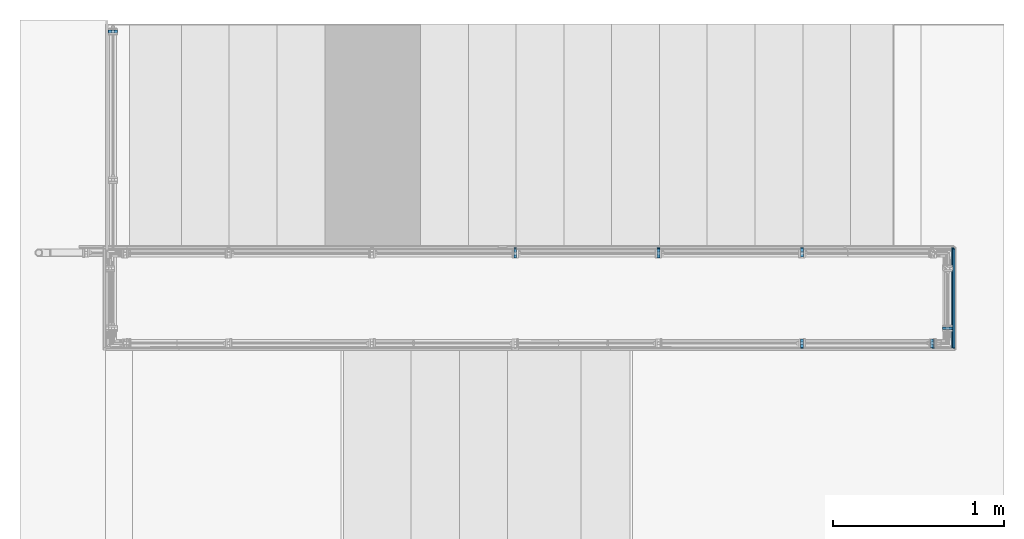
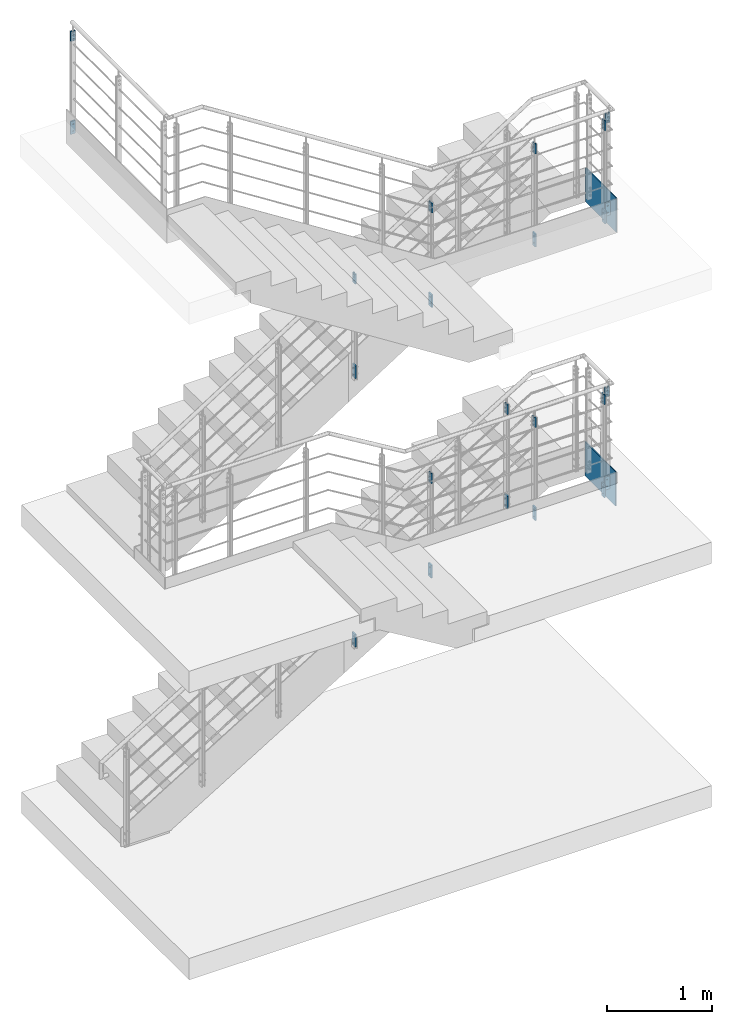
# One storey, part 19 of 98: 25 plates, 57 openings.
"""IFC2X3 building model written with IfcOpenShell, lengths in millimetres."""

import ifcopenshell
import ifcopenshell.guid

model = None  # the IFC model being written
_history = None  # IfcOwnerHistory: only IFC2X3 demands one
_inside = {}  # id of a spatial element -> (the spatial element, [elements in it])
_under = {}  # id of a project, library or spatial element -> (it, [spatial elements below it])
_declared = {}  # id of a project -> (the project, [libraries it declares])
_typed = {}  # id of a type object -> (the type object, [elements of that type])
_made_of = {}  # id of a material, layer set ... -> (it, [elements and type objects made of it])


def new_model(schema):
    """Start an empty IFC model of exactly this schema.

    Asked for "IFC4X3", IfcOpenShell would pick the latest addendum, in which some entities
    have other attributes; the version numbers below select the first issue.
    IFC2X3 requires an IfcOwnerHistory on every rooted entity: one is made here for all.
    """
    global model, _history
    if schema == "IFC4X3":
        model = ifcopenshell.file(schema_version=(4, 3, 0, 0))
    else:
        model = ifcopenshell.file(schema=schema)
    _inside.clear()
    _under.clear()
    _declared.clear()
    _typed.clear()
    _made_of.clear()
    _history = None
    if model.schema == "IFC2X3":
        org = make("IfcOrganization", Name="unknown")
        user = make(
            "IfcPersonAndOrganization",
            ThePerson=make("IfcPerson", FamilyName="unknown"),
            TheOrganization=org,
        )
        app = make(
            "IfcApplication",
            ApplicationDeveloper=org,
            Version="unknown",
            ApplicationFullName="unknown",
            ApplicationIdentifier="unknown",
        )
        _history = make(
            "IfcOwnerHistory",
            OwningUser=user,
            OwningApplication=app,
            ChangeAction="ADDED",
            CreationDate=0,
        )
    return model


def make(cls, **values):
    """One entity of the class cls with the attributes given. An attribute that is None is left unset."""
    return model.create_entity(
        cls, **{name: value for name, value in values.items() if value is not None}
    )


def entity(cls, *values):
    """Any entity or typed value of the class cls, its attributes in the order of the schema. None: left unset."""
    e = model.create_entity(cls)
    for i, value in enumerate(values):
        if value is not None:
            e[i] = value
    return e


def rooted(cls, **values):
    """An entity with a GlobalId (a new one), such as an element, a storey or a relation."""
    return make(cls, GlobalId=ifcopenshell.guid.new(), OwnerHistory=_history, **values)


def si_unit(unit_type, name, prefix=None):
    """IfcSIUnit, for example si_unit("LENGTHUNIT", "METRE", prefix="MILLI")."""
    return make("IfcSIUnit", UnitType=unit_type, Prefix=prefix, Name=name)


def converted_unit(unit_type, name, factor, base, dimensions=None, offset=None):
    """IfcConversionBasedUnit, such as the inch: factor (a typed value) times the base unit."""
    return make(
        "IfcConversionBasedUnit"
        if offset is None
        else "IfcConversionBasedUnitWithOffset",
        ConversionOffset=offset,
        Dimensions=None
        if dimensions is None
        else entity("IfcDimensionalExponents", *dimensions),
        UnitType=unit_type,
        Name=name,
        ConversionFactor=make(
            "IfcMeasureWithUnit", ValueComponent=factor, UnitComponent=base
        ),
    )


def assignment(units):
    """IfcUnitAssignment: the units of a project."""
    return None if units is None else make("IfcUnitAssignment", Units=units)


def point(xyz):
    """IfcCartesianPoint."""
    return None if xyz is None else make("IfcCartesianPoint", Coordinates=xyz)


def direction(xyz):
    """IfcDirection."""
    return None if xyz is None else make("IfcDirection", DirectionRatios=xyz)


def frame(location, z_axis=None, x_axis=None):
    """IfcAxis2Placement3D, a coordinate frame: its origin and axes. An axis left out is left unset."""
    return make(
        "IfcAxis2Placement3D",
        Location=point(location),
        Axis=direction(z_axis),
        RefDirection=direction(x_axis),
    )


def frame_2d(location, x_axis=None):
    """IfcAxis2Placement2D, a coordinate frame in the plane: its origin and x axis."""
    return make(
        "IfcAxis2Placement2D", Location=point(location), RefDirection=direction(x_axis)
    )


def origin():
    """The frame at (0, 0, 0) with its axes left unset."""
    return frame((0.0, 0.0, 0.0))


def origin_with_axes():
    """The frame at (0, 0, 0) with the z axis (0, 0, 1) and the x axis (1, 0, 0) written out."""
    return frame((0.0, 0.0, 0.0), z_axis=(0.0, 0.0, 1.0), x_axis=(1.0, 0.0, 0.0))


def place(relative_to, where):
    """IfcLocalPlacement: puts the frame where relative to a parent placement (None: the world)."""
    return make(
        "IfcLocalPlacement", PlacementRelTo=relative_to, RelativePlacement=where
    )


def context(
    kind, dimensions, precision=None, world=None, true_north=None, identifier=None
):
    """IfcGeometricRepresentationContext, for example the 3D "Model" context."""
    return make(
        "IfcGeometricRepresentationContext",
        ContextIdentifier=identifier,
        ContextType=kind,
        CoordinateSpaceDimension=dimensions,
        Precision=precision,
        WorldCoordinateSystem=world,
        TrueNorth=true_north,
    )


def project(units=None, contexts=None):
    """IfcProject with its units and contexts."""
    return rooted(
        "IfcProject",
        Name="project",
        RepresentationContexts=contexts,
        UnitsInContext=assignment(units),
    )


def spatial(cls, under=None, at=None, **own):
    """A site, building, storey or space (cls), placed at a placement, below another one or the project."""
    s = rooted(cls, ObjectPlacement=at, **own)
    if under is not None:
        _under.setdefault(under.id(), (under, []))[1].append(s)
    return s


def polyline(points):
    """IfcPolyline through the points."""
    return make("IfcPolyline", Points=[point(p) for p in points])


def profile(cls, at=None, kind="AREA", **sizes):
    """A parametric profile (cls). Its sizes go by their IFC names, for example OverallWidth=200.0."""
    return make(cls, ProfileType=kind, Position=at, **sizes)


def circle(**sizes):
    """IfcCircleProfileDef."""
    return profile("IfcCircleProfileDef", **sizes)


def outline(outer, holes=None, kind="AREA"):
    """IfcArbitraryClosedProfileDef: a profile drawn as a closed curve; with holes, ...WithVoids."""
    if holes is None:
        return make("IfcArbitraryClosedProfileDef", ProfileType=kind, OuterCurve=outer)
    return make(
        "IfcArbitraryProfileDefWithVoids",
        ProfileType=kind,
        OuterCurve=outer,
        InnerCurves=holes,
    )


def extrude(swept, where, along, depth):
    """IfcExtrudedAreaSolid: the profile swept, set in the frame where, extruded along a direction by depth."""
    return make(
        "IfcExtrudedAreaSolid",
        SweptArea=swept,
        Position=where,
        ExtrudedDirection=direction(along),
        Depth=depth,
    )


def shape(context_of_items, identifier, shape_type, items):
    """IfcShapeRepresentation: the items that make up one representation, for example the "Body"."""
    return make(
        "IfcShapeRepresentation",
        ContextOfItems=context_of_items,
        RepresentationIdentifier=identifier,
        RepresentationType=shape_type,
        Items=items,
    )


def material(Name=None, Category=None):
    """IfcMaterial."""
    return make("IfcMaterial", Name=Name, Category=Category)


def layer(
    of_material, thickness, ventilated=None, Name=None, Category=None, Priority=None
):
    """IfcMaterialLayer: one layer of a wall or slab, of a material (None: an air gap)."""
    return make(
        "IfcMaterialLayer",
        Material=of_material,
        LayerThickness=thickness,
        IsVentilated=ventilated,
        Name=Name,
        Category=Category,
        Priority=Priority,
    )


def layer_set(layers, Name=None):
    """IfcMaterialLayerSet."""
    return make("IfcMaterialLayerSet", MaterialLayers=layers, LayerSetName=Name)


def made_of(thing, what):
    """Note that an element or type object is made of a material, layer set ...; save() writes the relation."""
    if what is not None:
        _made_of.setdefault(what.id(), (what, []))[1].append(thing)
    return thing


def element(
    cls,
    number,
    at=None,
    inside=None,
    cuts=None,
    type_object=None,
    material=None,
    context=None,
    identifier="Body",
    shape_type=None,
    held_by="IfcProductDefinitionShape",
    body=None,
    shapes=None,
    **own,
):
    """One element of the class cls, such as IfcWall. Its Tag is "e" and its number.

    at: its placement. inside: the storey or other place that contains it. cuts: it is an
    opening in that element (IfcRelVoidsElement). A single representation is given by context,
    identifier, shape_type and body (its items); several are given by shapes. held_by: the class
    of the entity that holds the representations. save() writes the other relations.
    """
    e = rooted(cls, Tag="e%d" % number, ObjectPlacement=at, **own)
    if body is not None:
        shapes = [shape(context, identifier, shape_type, body)]
    if shapes is not None:
        e.Representation = make(held_by, Representations=shapes)
    if inside is not None:
        _inside.setdefault(inside.id(), (inside, []))[1].append(e)
    if cuts is not None:
        rooted(
            "IfcRelVoidsElement", RelatingBuildingElement=cuts, RelatedOpeningElement=e
        )
    if type_object is not None:
        _typed.setdefault(type_object.id(), (type_object, []))[1].append(e)
    return made_of(e, material)


def aggregate(whole, parts):
    """IfcRelAggregates: a whole, such as a stair, and the parts it consists of."""
    return rooted("IfcRelAggregates", RelatingObject=whole, RelatedObjects=parts)


def save(model, path):
    """Write the relations noted so far, then the file.

    IfcRelAggregates (storeys below a building ...), IfcRelContainedInSpatialStructure (elements
    in a storey), IfcRelDefinesByType, IfcRelAssociatesMaterial and IfcRelDeclares: one each for
    every whole, place, type object, material and project.
    """
    for whole, parts in _under.values():
        aggregate(whole, parts)
    for where, things in _inside.values():
        rooted(
            "IfcRelContainedInSpatialStructure",
            RelatedElements=things,
            RelatingStructure=where,
        )
    for kind, things in _typed.values():
        rooted("IfcRelDefinesByType", RelatedObjects=things, RelatingType=kind)
    for what, things in _made_of.values():
        rooted("IfcRelAssociatesMaterial", RelatedObjects=things, RelatingMaterial=what)
    for by, libraries in _declared.values():
        rooted("IfcRelDeclares", RelatingContext=by, RelatedDefinitions=libraries)
    model.write(path)


model = new_model("IFC2X3")

# Units and contexts
model_context = context("Model", 3, precision=1e-09, world=origin_with_axes())
ifc_project = project(units=[si_unit("LENGTHUNIT", "METRE", prefix="MILLI"), si_unit("AREAUNIT", "SQUARE_METRE"), si_unit("VOLUMEUNIT", "CUBIC_METRE"), converted_unit("PLANEANGLEUNIT", "DEGREE", entity("IfcPlaneAngleMeasure", 0.01745329), si_unit("PLANEANGLEUNIT", "RADIAN"), dimensions=[0, 0, 0, 0, 0, 0, 0])], contexts=[model_context])

# Site, building, storey
site_placement = place(None, origin_with_axes())
site = spatial("IfcSite", under=ifc_project, at=site_placement, Name="Maybachstra?e 2, 71563 Affalterbach", CompositionType="ELEMENT")
building_placement = place(site_placement, origin_with_axes())
building = spatial("IfcBuilding", under=site, at=building_placement, Name="Struktur 1", CompositionType="ELEMENT")
storey_placement = place(building_placement, origin_with_axes())
storey = spatial("IfcBuildingStorey", under=building, at=storey_placement, Name="Default Storey", CompositionType="ELEMENT", Elevation=0.0)

# Plate, openings
ifc_material_1 = material(Name="1.4301")
ifc_layer_1 = layer(ifc_material_1, 16.0)
ifc_layer_set_1 = layer_set([ifc_layer_1], Name="1.4301")
plate_1_placement = place(None, frame((10543.029157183, -45.0, 6299.059373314), z_axis=(1.0, 0.0, 0.0), x_axis=(0.0, 1.0, 0.0)))
plate_1 = element("IfcPlate", 1, at=plate_1_placement, inside=storey, material=ifc_layer_set_1, Name="-", ObjectType="-", context=model_context, shape_type="SweptSolid", body=[
    extrude(outline(polyline([(-25.0, -57.5), (25.0, -57.5), (25.0, 57.5), (-25.0, 57.5), (-25.0, -57.5)])), origin_with_axes(), (0.0, 0.0, -1.0), 16.0),
])
opening_1_placement = place(plate_1_placement, frame((-8.251, 32.499, 0.1), z_axis=(0.0, 0.0, 1.0), x_axis=(1.0, 0.0, 0.0)))
element("IfcOpeningElement", 2, at=opening_1_placement, cuts=plate_1, ObjectType="Opening", context=model_context, shape_type="SweptSolid", body=[
    extrude(outline(polyline([(0.0, 0.0), (16.502, 0.0), (16.502, 41.42654386), (0.0, 41.42654386), (0.0, 0.0)])), origin(), (0.0, 0.0, -1.0), 16.2),
])
opening_2_placement = place(plate_1_placement, frame((-6.501, 12.5, 0.5), z_axis=(0.0, 0.0, 1.0), x_axis=(1.0, 0.0, 0.0)))
element("IfcOpeningElement", 3, at=opening_2_placement, cuts=plate_1, ObjectType="Opening", context=model_context, shape_type="SweptSolid", body=[
    extrude(circle(Radius=6.501, at=frame_2d((6.501, 0.0), x_axis=(1.0, 0.0))), origin(), (0.0, 0.0, -1.0), 17.0),
])
opening_3_placement = place(plate_1_placement, frame((-6.501, -31.5, 0.5), z_axis=(0.0, 0.0, 1.0), x_axis=(1.0, 0.0, 0.0)))
element("IfcOpeningElement", 4, at=opening_3_placement, cuts=plate_1, ObjectType="Opening", context=model_context, shape_type="SweptSolid", body=[
    extrude(circle(Radius=6.501, at=frame_2d((6.501, 0.0), x_axis=(1.0, 0.0))), origin(), (0.0, 0.0, -1.0), 17.0),
])

ifc_material_2 = material(Name="S235JR")
ifc_layer_2 = layer(ifc_material_2, 16.0)
ifc_layer_set_2 = layer_set([ifc_layer_2], Name="S235JR")
plate_2_placement = place(None, frame((10543.029157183, -42.5, 5213.959373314), z_axis=(-1.0, 0.0, 0.0), x_axis=(0.0, -1.0, 0.0)))
plate_2 = element("IfcPlate", 5, at=plate_2_placement, inside=storey, material=ifc_layer_set_2, Name="-", ObjectType="-", context=model_context, shape_type="SweptSolid", body=[
    extrude(outline(polyline([(-27.5, -75.0), (27.5, -75.0), (27.5, 75.0), (-27.5, 75.0), (-27.5, -75.0)])), origin_with_axes(), (0.0, 0.0, 1.0), 16.0),
])
opening_4_placement = place(plate_2_placement, frame((9.501, 40.0, -0.5), z_axis=(0.0, 0.0, -1.0), x_axis=(-1.0, 0.0, 0.0)))
element("IfcOpeningElement", 6, at=opening_4_placement, cuts=plate_2, ObjectType="Opening", context=model_context, shape_type="SweptSolid", body=[
    extrude(circle(Radius=7.001, at=frame_2d((7.001, 0.0), x_axis=(1.0, 0.0))), origin(), (0.0, 0.0, -1.0), 17.0),
])
opening_5_placement = place(plate_2_placement, frame((9.501, -40.0, -0.5), z_axis=(0.0, 0.0, -1.0), x_axis=(-1.0, 0.0, 0.0)))
element("IfcOpeningElement", 7, at=opening_5_placement, cuts=plate_2, ObjectType="Opening", context=model_context, shape_type="SweptSolid", body=[
    extrude(circle(Radius=7.001, at=frame_2d((7.001, 0.0), x_axis=(1.0, 0.0))), origin(), (0.0, 0.0, -1.0), 17.0),
])

plate_3_placement = place(None, frame((11367.029157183, -572.5, 5947.5), z_axis=(1.0, 0.0, 0.0), x_axis=(0.0, 1.0, 0.0)))
plate_3 = element("IfcPlate", 8, at=plate_3_placement, inside=storey, material=ifc_layer_set_2, Name="-", ObjectType="-", context=model_context, shape_type="SweptSolid", body=[
    extrude(outline(polyline([(-27.5, -75.0), (27.5, -75.0), (27.5, 75.0), (-27.5, 75.0), (-27.5, -75.0)])), origin_with_axes(), (0.0, 0.0, 1.0), 16.0),
])
opening_6_placement = place(plate_3_placement, frame((2.5, 0.0, -0.5), z_axis=(0.0, 0.0, 1.0), x_axis=(1.0, 0.0, 0.0)))
element("IfcOpeningElement", 9, at=opening_6_placement, cuts=plate_3, ObjectType="Opening", context=model_context, shape_type="SweptSolid", body=[
    extrude(circle(Radius=7.001, at=frame_2d((0.0, 40.0), x_axis=(1.0, 0.0))), origin(), (0.0, 0.0, 1.0), 17.0),
])
opening_7_placement = place(plate_3_placement, frame((2.5, 0.0, -0.5), z_axis=(0.0, 0.0, 1.0), x_axis=(1.0, 0.0, 0.0)))
element("IfcOpeningElement", 10, at=opening_7_placement, cuts=plate_3, ObjectType="Opening", context=model_context, shape_type="SweptSolid", body=[
    extrude(circle(Radius=7.001, at=frame_2d((0.0, -40.0), x_axis=(1.0, 0.0))), origin(), (0.0, 0.0, 1.0), 17.0),
])

plate_4_placement = place(None, frame((11367.029157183, -570.0, 7012.6), z_axis=(1.0, 0.0, 0.0), x_axis=(0.0, 1.0, 0.0)))
plate_4 = element("IfcPlate", 11, at=plate_4_placement, inside=storey, material=ifc_layer_set_1, Name="-", ObjectType="-", context=model_context, shape_type="SweptSolid", body=[
    extrude(outline(polyline([(-25.0, -57.5), (25.0, -57.5), (25.0, 57.5), (-25.0, 57.5), (-25.0, -57.5)])), origin_with_axes(), (0.0, 0.0, 1.0), 16.0),
])
opening_8_placement = place(plate_4_placement, frame((0.0, 0.0, -0.1), z_axis=(0.0, 0.0, 1.0), x_axis=(1.0, 0.0, 0.0)))
element("IfcOpeningElement", 12, at=opening_8_placement, cuts=plate_4, ObjectType="Opening", context=model_context, shape_type="SweptSolid", body=[
    extrude(outline(polyline([(-8.251, 32.499), (8.251, 32.499), (8.251, 73.92554386), (-8.251, 73.92554386), (-8.251, 32.499)])), origin(), (0.0, 0.0, 1.0), 16.2),
])
opening_9_placement = place(plate_4_placement, frame((0.0, -9.5, -0.5), z_axis=(0.0, 0.0, 1.0), x_axis=(1.0, 0.0, 0.0)))
element("IfcOpeningElement", 13, at=opening_9_placement, cuts=plate_4, ObjectType="Opening", context=model_context, shape_type="SweptSolid", body=[
    extrude(circle(Radius=6.501, at=frame_2d((0.0, 22.0), x_axis=(1.0, 0.0))), origin(), (0.0, 0.0, 1.0), 17.0),
])
opening_10_placement = place(plate_4_placement, frame((0.0, -9.5, -0.5), z_axis=(0.0, 0.0, 1.0), x_axis=(1.0, 0.0, 0.0)))
element("IfcOpeningElement", 14, at=opening_10_placement, cuts=plate_4, ObjectType="Opening", context=model_context, shape_type="SweptSolid", body=[
    extrude(circle(Radius=6.501, at=frame_2d((0.0, -22.0), x_axis=(1.0, 0.0))), origin(), (0.0, 0.0, 1.0), 17.0),
])

plate_5_placement = place(None, frame((12136.029157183, -572.5, 5947.5), z_axis=(1.0, 0.0, 0.0), x_axis=(0.0, 1.0, 0.0)))
plate_5 = element("IfcPlate", 15, at=plate_5_placement, inside=storey, material=ifc_layer_set_2, Name="-", ObjectType="-", context=model_context, shape_type="SweptSolid", body=[
    extrude(outline(polyline([(-27.5, -75.0), (27.5, -75.0), (27.5, 75.0), (-27.5, 75.0), (-27.5, -75.0)])), origin_with_axes(), (0.0, 0.0, 1.0), 16.0),
])
opening_11_placement = place(plate_5_placement, frame((2.5, 0.0, -0.5), z_axis=(0.0, 0.0, 1.0), x_axis=(1.0, 0.0, 0.0)))
element("IfcOpeningElement", 16, at=opening_11_placement, cuts=plate_5, ObjectType="Opening", context=model_context, shape_type="SweptSolid", body=[
    extrude(circle(Radius=7.001, at=frame_2d((0.0, 40.0), x_axis=(1.0, 0.0))), origin(), (0.0, 0.0, 1.0), 17.0),
])
opening_12_placement = place(plate_5_placement, frame((2.5, 0.0, -0.5), z_axis=(0.0, 0.0, 1.0), x_axis=(1.0, 0.0, 0.0)))
element("IfcOpeningElement", 17, at=opening_12_placement, cuts=plate_5, ObjectType="Opening", context=model_context, shape_type="SweptSolid", body=[
    extrude(circle(Radius=7.001, at=frame_2d((0.0, -40.0), x_axis=(1.0, 0.0))), origin(), (0.0, 0.0, 1.0), 17.0),
])

plate_6_placement = place(None, frame((12136.029157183, -570.0, 7012.6), z_axis=(1.0, 0.0, 0.0), x_axis=(0.0, 1.0, 0.0)))
plate_6 = element("IfcPlate", 18, at=plate_6_placement, inside=storey, material=ifc_layer_set_1, Name="-", ObjectType="-", context=model_context, shape_type="SweptSolid", body=[
    extrude(outline(polyline([(-25.0, -57.5), (25.0, -57.5), (25.0, 57.5), (-25.0, 57.5), (-25.0, -57.5)])), origin_with_axes(), (0.0, 0.0, 1.0), 16.0),
])
opening_13_placement = place(plate_6_placement, frame((0.0, 0.0, -0.1), z_axis=(0.0, 0.0, 1.0), x_axis=(1.0, 0.0, 0.0)))
element("IfcOpeningElement", 19, at=opening_13_placement, cuts=plate_6, ObjectType="Opening", context=model_context, shape_type="SweptSolid", body=[
    extrude(outline(polyline([(-8.251, 32.499), (8.251, 32.499), (8.251, 73.92554386), (-8.251, 73.92554386), (-8.251, 32.499)])), origin(), (0.0, 0.0, 1.0), 16.2),
])
opening_14_placement = place(plate_6_placement, frame((0.0, -9.5, -0.5), z_axis=(0.0, 0.0, 1.0), x_axis=(1.0, 0.0, 0.0)))
element("IfcOpeningElement", 20, at=opening_14_placement, cuts=plate_6, ObjectType="Opening", context=model_context, shape_type="SweptSolid", body=[
    extrude(circle(Radius=6.501, at=frame_2d((0.0, 22.0), x_axis=(1.0, 0.0))), origin(), (0.0, 0.0, 1.0), 17.0),
])
opening_15_placement = place(plate_6_placement, frame((0.0, -9.5, -0.5), z_axis=(0.0, 0.0, 1.0), x_axis=(1.0, 0.0, 0.0)))
element("IfcOpeningElement", 21, at=opening_15_placement, cuts=plate_6, ObjectType="Opening", context=model_context, shape_type="SweptSolid", body=[
    extrude(circle(Radius=6.501, at=frame_2d((0.0, -22.0), x_axis=(1.0, 0.0))), origin(), (0.0, 0.0, 1.0), 17.0),
])

plate_7_placement = place(None, frame((11367.029157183, -571.5, 2755.0), z_axis=(1.0, 0.0, 0.0), x_axis=(0.0, 1.0, 0.0)))
plate_7 = element("IfcPlate", 22, at=plate_7_placement, inside=storey, material=ifc_layer_set_2, Name="-", ObjectType="-", context=model_context, shape_type="SweptSolid", body=[
    extrude(outline(polyline([(-27.5, -75.0), (27.5, -75.0), (27.5, 75.0), (-27.5, 75.0), (-27.5, -75.0)])), origin_with_axes(), (0.0, 0.0, 1.0), 16.0),
])
opening_16_placement = place(plate_7_placement, frame((2.5, 0.0, -0.5), z_axis=(0.0, 0.0, 1.0), x_axis=(1.0, 0.0, 0.0)))
element("IfcOpeningElement", 23, at=opening_16_placement, cuts=plate_7, ObjectType="Opening", context=model_context, shape_type="SweptSolid", body=[
    extrude(circle(Radius=7.001, at=frame_2d((0.0, 40.0), x_axis=(1.0, 0.0))), origin(), (0.0, 0.0, 1.0), 17.0),
])
opening_17_placement = place(plate_7_placement, frame((2.5, 0.0, -0.5), z_axis=(0.0, 0.0, 1.0), x_axis=(1.0, 0.0, 0.0)))
element("IfcOpeningElement", 24, at=opening_17_placement, cuts=plate_7, ObjectType="Opening", context=model_context, shape_type="SweptSolid", body=[
    extrude(circle(Radius=7.001, at=frame_2d((0.0, -40.0), x_axis=(1.0, 0.0))), origin(), (0.0, 0.0, 1.0), 17.0),
])

plate_8_placement = place(None, frame((11367.029157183, -569.0, 3820.1), z_axis=(1.0, 0.0, 0.0), x_axis=(0.0, 1.0, 0.0)))
plate_8 = element("IfcPlate", 25, at=plate_8_placement, inside=storey, material=ifc_layer_set_1, Name="-", ObjectType="-", context=model_context, shape_type="SweptSolid", body=[
    extrude(outline(polyline([(-25.0, -57.5), (25.0, -57.5), (25.0, 57.5), (-25.0, 57.5), (-25.0, -57.5)])), origin_with_axes(), (0.0, 0.0, 1.0), 16.0),
])
opening_18_placement = place(plate_8_placement, frame((0.0, 0.0, -0.1), z_axis=(0.0, 0.0, 1.0), x_axis=(1.0, 0.0, 0.0)))
element("IfcOpeningElement", 26, at=opening_18_placement, cuts=plate_8, ObjectType="Opening", context=model_context, shape_type="SweptSolid", body=[
    extrude(outline(polyline([(-8.251, 32.499), (8.251, 32.499), (8.251, 73.92554386), (-8.251, 73.92554386), (-8.251, 32.499)])), origin(), (0.0, 0.0, 1.0), 16.2),
])
opening_19_placement = place(plate_8_placement, frame((0.0, -9.5, -0.5), z_axis=(0.0, 0.0, 1.0), x_axis=(1.0, 0.0, 0.0)))
element("IfcOpeningElement", 27, at=opening_19_placement, cuts=plate_8, ObjectType="Opening", context=model_context, shape_type="SweptSolid", body=[
    extrude(circle(Radius=6.501, at=frame_2d((0.0, 22.0), x_axis=(1.0, 0.0))), origin(), (0.0, 0.0, 1.0), 17.0),
])
opening_20_placement = place(plate_8_placement, frame((0.0, -9.5, -0.5), z_axis=(0.0, 0.0, 1.0), x_axis=(1.0, 0.0, 0.0)))
element("IfcOpeningElement", 28, at=opening_20_placement, cuts=plate_8, ObjectType="Opening", context=model_context, shape_type="SweptSolid", body=[
    extrude(circle(Radius=6.501, at=frame_2d((0.0, -22.0), x_axis=(1.0, 0.0))), origin(), (0.0, 0.0, 1.0), 17.0),
])

plate_9_placement = place(None, frame((12129.029157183, -571.5, 2755.0), z_axis=(1.0, 0.0, 0.0), x_axis=(0.0, 1.0, 0.0)))
plate_9 = element("IfcPlate", 29, at=plate_9_placement, inside=storey, material=ifc_layer_set_2, Name="-", ObjectType="-", context=model_context, shape_type="SweptSolid", body=[
    extrude(outline(polyline([(-27.5, -75.0), (27.5, -75.0), (27.5, 75.0), (-27.5, 75.0), (-27.5, -75.0)])), origin_with_axes(), (0.0, 0.0, 1.0), 16.0),
])
opening_21_placement = place(plate_9_placement, frame((2.5, 0.0, -0.5), z_axis=(0.0, 0.0, 1.0), x_axis=(1.0, 0.0, 0.0)))
element("IfcOpeningElement", 30, at=opening_21_placement, cuts=plate_9, ObjectType="Opening", context=model_context, shape_type="SweptSolid", body=[
    extrude(circle(Radius=7.001, at=frame_2d((0.0, 40.0), x_axis=(1.0, 0.0))), origin(), (0.0, 0.0, 1.0), 17.0),
])
opening_22_placement = place(plate_9_placement, frame((2.5, 0.0, -0.5), z_axis=(0.0, 0.0, 1.0), x_axis=(1.0, 0.0, 0.0)))
element("IfcOpeningElement", 31, at=opening_22_placement, cuts=plate_9, ObjectType="Opening", context=model_context, shape_type="SweptSolid", body=[
    extrude(circle(Radius=7.001, at=frame_2d((0.0, -40.0), x_axis=(1.0, 0.0))), origin(), (0.0, 0.0, 1.0), 17.0),
])

plate_10_placement = place(None, frame((12129.029157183, -569.0, 3820.1), z_axis=(1.0, 0.0, 0.0), x_axis=(0.0, 1.0, 0.0)))
plate_10 = element("IfcPlate", 32, at=plate_10_placement, inside=storey, material=ifc_layer_set_1, Name="-", ObjectType="-", context=model_context, shape_type="SweptSolid", body=[
    extrude(outline(polyline([(-25.0, -57.5), (25.0, -57.5), (25.0, 57.5), (-25.0, 57.5), (-25.0, -57.5)])), origin_with_axes(), (0.0, 0.0, 1.0), 16.0),
])
opening_23_placement = place(plate_10_placement, frame((0.0, 0.0, -0.1), z_axis=(0.0, 0.0, 1.0), x_axis=(1.0, 0.0, 0.0)))
element("IfcOpeningElement", 33, at=opening_23_placement, cuts=plate_10, ObjectType="Opening", context=model_context, shape_type="SweptSolid", body=[
    extrude(outline(polyline([(-8.251, 32.499), (8.251, 32.499), (8.251, 73.92554386), (-8.251, 73.92554386), (-8.251, 32.499)])), origin(), (0.0, 0.0, 1.0), 16.2),
])
opening_24_placement = place(plate_10_placement, frame((0.0, -9.5, -0.5), z_axis=(0.0, 0.0, 1.0), x_axis=(1.0, 0.0, 0.0)))
element("IfcOpeningElement", 34, at=opening_24_placement, cuts=plate_10, ObjectType="Opening", context=model_context, shape_type="SweptSolid", body=[
    extrude(circle(Radius=6.501, at=frame_2d((0.0, 22.0), x_axis=(1.0, 0.0))), origin(), (0.0, 0.0, 1.0), 17.0),
])
opening_25_placement = place(plate_10_placement, frame((0.0, -9.5, -0.5), z_axis=(0.0, 0.0, 1.0), x_axis=(1.0, 0.0, 0.0)))
element("IfcOpeningElement", 35, at=opening_25_placement, cuts=plate_10, ObjectType="Opening", context=model_context, shape_type="SweptSolid", body=[
    extrude(circle(Radius=6.501, at=frame_2d((0.0, -22.0), x_axis=(1.0, 0.0))), origin(), (0.0, 0.0, 1.0), 17.0),
])

# Plate
ifc_layer_3 = layer(ifc_material_2, 10.0)
ifc_layer_set_3 = layer_set([ifc_layer_3], Name="S235JR")
plate_11_placement = place(None, frame((12264.032157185, -304.5, 2740.0), z_axis=(-1.0, 0.0, 0.0), x_axis=(0.0, -1.0, 0.0)))
element("IfcPlate", 36, at=plate_11_placement, inside=storey, material=ifc_layer_set_3, Name="-", ObjectType="-", context=model_context, shape_type="SweptSolid", body=[
    extrude(outline(polyline([(-292.5, -200.0), (292.5, -200.0), (292.5, 200.0), (-292.5, 200.0), (-292.5, -200.0)])), origin_with_axes(), (0.0, 0.0, 1.0), 10.0),
])

# Plate, openings
plate_12_placement = place(None, frame((9703.029157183, -37.5, 1543.832336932), z_axis=(-1.0, 0.0, 0.0), x_axis=(0.0, -1.0, 0.0)))
plate_12 = element("IfcPlate", 37, at=plate_12_placement, inside=storey, material=ifc_layer_set_2, Name="-", ObjectType="-", context=model_context, shape_type="SweptSolid", body=[
    extrude(outline(polyline([(-27.5, -75.0), (27.5, -75.0), (27.5, 75.0), (-27.5, 75.0), (-27.5, -75.0)])), origin_with_axes(), (0.0, 0.0, 1.0), 16.0),
])
opening_26_placement = place(plate_12_placement, frame((9.501, 40.0, -0.5), z_axis=(0.0, 0.0, -1.0), x_axis=(-1.0, 0.0, 0.0)))
element("IfcOpeningElement", 38, at=opening_26_placement, cuts=plate_12, ObjectType="Opening", context=model_context, shape_type="SweptSolid", body=[
    extrude(circle(Radius=7.001, at=frame_2d((7.001, 0.0), x_axis=(1.0, 0.0))), origin(), (0.0, 0.0, -1.0), 17.0),
])
opening_27_placement = place(plate_12_placement, frame((9.501, -40.0, -0.5), z_axis=(0.0, 0.0, -1.0), x_axis=(-1.0, 0.0, 0.0)))
element("IfcOpeningElement", 39, at=opening_27_placement, cuts=plate_12, ObjectType="Opening", context=model_context, shape_type="SweptSolid", body=[
    extrude(circle(Radius=7.001, at=frame_2d((7.001, 0.0), x_axis=(1.0, 0.0))), origin(), (0.0, 0.0, -1.0), 17.0),
])

plate_13_placement = place(None, frame((10543.029157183, -40.0, 3140.057336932), z_axis=(1.0, 0.0, 0.0), x_axis=(0.0, 1.0, 0.0)))
plate_13 = element("IfcPlate", 40, at=plate_13_placement, inside=storey, material=ifc_layer_set_1, Name="-", ObjectType="-", context=model_context, shape_type="SweptSolid", body=[
    extrude(outline(polyline([(-25.0, -57.5), (25.0, -57.5), (25.0, 57.5), (-25.0, 57.5), (-25.0, -57.5)])), origin_with_axes(), (0.0, 0.0, -1.0), 16.0),
])
opening_28_placement = place(plate_13_placement, frame((-8.251, 32.499, 0.1), z_axis=(0.0, 0.0, 1.0), x_axis=(1.0, 0.0, 0.0)))
element("IfcOpeningElement", 41, at=opening_28_placement, cuts=plate_13, ObjectType="Opening", context=model_context, shape_type="SweptSolid", body=[
    extrude(outline(polyline([(0.0, 0.0), (16.502, 0.0), (16.502, 41.42654386), (0.0, 41.42654386), (0.0, 0.0)])), origin(), (0.0, 0.0, -1.0), 16.2),
])
opening_29_placement = place(plate_13_placement, frame((-6.501, 12.5, 0.5), z_axis=(0.0, 0.0, 1.0), x_axis=(1.0, 0.0, 0.0)))
element("IfcOpeningElement", 42, at=opening_29_placement, cuts=plate_13, ObjectType="Opening", context=model_context, shape_type="SweptSolid", body=[
    extrude(circle(Radius=6.501, at=frame_2d((6.501, 0.0), x_axis=(1.0, 0.0))), origin(), (0.0, 0.0, -1.0), 17.0),
])
opening_30_placement = place(plate_13_placement, frame((-6.501, -31.5, 0.5), z_axis=(0.0, 0.0, 1.0), x_axis=(1.0, 0.0, 0.0)))
element("IfcOpeningElement", 43, at=opening_30_placement, cuts=plate_13, ObjectType="Opening", context=model_context, shape_type="SweptSolid", body=[
    extrude(circle(Radius=6.501, at=frame_2d((6.501, 0.0), x_axis=(1.0, 0.0))), origin(), (0.0, 0.0, -1.0), 17.0),
])

plate_14_placement = place(None, frame((10543.029157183, -37.5, 2054.957336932), z_axis=(-1.0, 0.0, 0.0), x_axis=(0.0, -1.0, 0.0)))
plate_14 = element("IfcPlate", 44, at=plate_14_placement, inside=storey, material=ifc_layer_set_2, Name="-", ObjectType="-", context=model_context, shape_type="SweptSolid", body=[
    extrude(outline(polyline([(-27.5, -75.0), (27.5, -75.0), (27.5, 75.0), (-27.5, 75.0), (-27.5, -75.0)])), origin_with_axes(), (0.0, 0.0, 1.0), 16.0),
])
opening_31_placement = place(plate_14_placement, frame((9.501, 40.0, -0.5), z_axis=(0.0, 0.0, -1.0), x_axis=(-1.0, 0.0, 0.0)))
element("IfcOpeningElement", 45, at=opening_31_placement, cuts=plate_14, ObjectType="Opening", context=model_context, shape_type="SweptSolid", body=[
    extrude(circle(Radius=7.001, at=frame_2d((7.001, 0.0), x_axis=(1.0, 0.0))), origin(), (0.0, 0.0, -1.0), 17.0),
])
opening_32_placement = place(plate_14_placement, frame((9.501, -40.0, -0.5), z_axis=(0.0, 0.0, -1.0), x_axis=(-1.0, 0.0, 0.0)))
element("IfcOpeningElement", 46, at=opening_32_placement, cuts=plate_14, ObjectType="Opening", context=model_context, shape_type="SweptSolid", body=[
    extrude(circle(Radius=7.001, at=frame_2d((7.001, 0.0), x_axis=(1.0, 0.0))), origin(), (0.0, 0.0, -1.0), 17.0),
])

plate_15_placement = place(None, frame((11383.029157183, -40.0, 3651.182336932), z_axis=(1.0, 0.0, 0.0), x_axis=(0.0, 1.0, 0.0)))
plate_15 = element("IfcPlate", 47, at=plate_15_placement, inside=storey, material=ifc_layer_set_1, Name="-", ObjectType="-", context=model_context, shape_type="SweptSolid", body=[
    extrude(outline(polyline([(-25.0, -57.5), (25.0, -57.5), (25.0, 57.5), (-25.0, 57.5), (-25.0, -57.5)])), origin_with_axes(), (0.0, 0.0, -1.0), 16.0),
])
opening_33_placement = place(plate_15_placement, frame((-8.251, 32.499, 0.1), z_axis=(0.0, 0.0, 1.0), x_axis=(1.0, 0.0, 0.0)))
element("IfcOpeningElement", 48, at=opening_33_placement, cuts=plate_15, ObjectType="Opening", context=model_context, shape_type="SweptSolid", body=[
    extrude(outline(polyline([(0.0, 0.0), (16.502, 0.0), (16.502, 41.42654386), (0.0, 41.42654386), (0.0, 0.0)])), origin(), (0.0, 0.0, -1.0), 16.2),
])
opening_34_placement = place(plate_15_placement, frame((-6.501, 12.5, 0.5), z_axis=(0.0, 0.0, 1.0), x_axis=(1.0, 0.0, 0.0)))
element("IfcOpeningElement", 49, at=opening_34_placement, cuts=plate_15, ObjectType="Opening", context=model_context, shape_type="SweptSolid", body=[
    extrude(circle(Radius=6.501, at=frame_2d((6.501, 0.0), x_axis=(1.0, 0.0))), origin(), (0.0, 0.0, -1.0), 17.0),
])
opening_35_placement = place(plate_15_placement, frame((-6.501, -31.5, 0.5), z_axis=(0.0, 0.0, 1.0), x_axis=(1.0, 0.0, 0.0)))
element("IfcOpeningElement", 50, at=opening_35_placement, cuts=plate_15, ObjectType="Opening", context=model_context, shape_type="SweptSolid", body=[
    extrude(circle(Radius=6.501, at=frame_2d((6.501, 0.0), x_axis=(1.0, 0.0))), origin(), (0.0, 0.0, -1.0), 17.0),
])

plate_16_placement = place(None, frame((11383.029157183, -37.5, 2566.082336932), z_axis=(-1.0, 0.0, 0.0), x_axis=(0.0, -1.0, 0.0)))
plate_16 = element("IfcPlate", 51, at=plate_16_placement, inside=storey, material=ifc_layer_set_2, Name="-", ObjectType="-", context=model_context, shape_type="SweptSolid", body=[
    extrude(outline(polyline([(-27.5, -75.0), (27.5, -75.0), (27.5, 75.0), (-27.5, 75.0), (-27.5, -75.0)])), origin_with_axes(), (0.0, 0.0, 1.0), 16.0),
])
opening_36_placement = place(plate_16_placement, frame((9.501, 40.0, -0.5), z_axis=(0.0, 0.0, -1.0), x_axis=(-1.0, 0.0, 0.0)))
element("IfcOpeningElement", 52, at=opening_36_placement, cuts=plate_16, ObjectType="Opening", context=model_context, shape_type="SweptSolid", body=[
    extrude(circle(Radius=7.001, at=frame_2d((7.001, 0.0), x_axis=(1.0, 0.0))), origin(), (0.0, 0.0, -1.0), 17.0),
])
opening_37_placement = place(plate_16_placement, frame((9.501, -40.0, -0.5), z_axis=(0.0, 0.0, -1.0), x_axis=(-1.0, 0.0, 0.0)))
element("IfcOpeningElement", 53, at=opening_37_placement, cuts=plate_16, ObjectType="Opening", context=model_context, shape_type="SweptSolid", body=[
    extrude(circle(Radius=7.001, at=frame_2d((7.001, 0.0), x_axis=(1.0, 0.0))), origin(), (0.0, 0.0, -1.0), 17.0),
])

plate_17_placement = place(None, frame((9703.029157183, -45.0, 5764.241539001), z_axis=(1.0, 0.0, 0.0), x_axis=(0.0, 1.0, 0.0)))
plate_17 = element("IfcPlate", 54, at=plate_17_placement, inside=storey, material=ifc_layer_set_1, Name="-", ObjectType="-", context=model_context, shape_type="SweptSolid", body=[
    extrude(outline(polyline([(-25.0, -57.5), (25.0, -57.5), (25.0, 57.5), (-25.0, 57.5), (-25.0, -57.5)])), origin_with_axes(), (0.0, 0.0, -1.0), 16.0),
])
opening_38_placement = place(plate_17_placement, frame((-8.251, 32.499, 0.1), z_axis=(0.0, 0.0, 1.0), x_axis=(1.0, 0.0, 0.0)))
element("IfcOpeningElement", 55, at=opening_38_placement, cuts=plate_17, ObjectType="Opening", context=model_context, shape_type="SweptSolid", body=[
    extrude(outline(polyline([(0.0, 0.0), (16.502, 0.0), (16.502, 41.42654386), (0.0, 41.42654386), (0.0, 0.0)])), origin(), (0.0, 0.0, -1.0), 16.2),
])
opening_39_placement = place(plate_17_placement, frame((-6.501, 12.5, 0.5), z_axis=(0.0, 0.0, 1.0), x_axis=(1.0, 0.0, 0.0)))
element("IfcOpeningElement", 56, at=opening_39_placement, cuts=plate_17, ObjectType="Opening", context=model_context, shape_type="SweptSolid", body=[
    extrude(circle(Radius=6.501, at=frame_2d((6.501, 0.0), x_axis=(1.0, 0.0))), origin(), (0.0, 0.0, -1.0), 17.0),
])
opening_40_placement = place(plate_17_placement, frame((-6.501, -31.5, 0.5), z_axis=(0.0, 0.0, 1.0), x_axis=(1.0, 0.0, 0.0)))
element("IfcOpeningElement", 57, at=opening_40_placement, cuts=plate_17, ObjectType="Opening", context=model_context, shape_type="SweptSolid", body=[
    extrude(circle(Radius=6.501, at=frame_2d((6.501, 0.0), x_axis=(1.0, 0.0))), origin(), (0.0, 0.0, -1.0), 17.0),
])

plate_18_placement = place(None, frame((9703.029157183, -42.5, 4679.141539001), z_axis=(-1.0, 0.0, 0.0), x_axis=(0.0, -1.0, 0.0)))
plate_18 = element("IfcPlate", 58, at=plate_18_placement, inside=storey, material=ifc_layer_set_2, Name="-", ObjectType="-", context=model_context, shape_type="SweptSolid", body=[
    extrude(outline(polyline([(-27.5, -75.0), (27.5, -75.0), (27.5, 75.0), (-27.5, 75.0), (-27.5, -75.0)])), origin_with_axes(), (0.0, 0.0, 1.0), 16.0),
])
opening_41_placement = place(plate_18_placement, frame((9.501, 40.0, -0.5), z_axis=(0.0, 0.0, -1.0), x_axis=(-1.0, 0.0, 0.0)))
element("IfcOpeningElement", 59, at=opening_41_placement, cuts=plate_18, ObjectType="Opening", context=model_context, shape_type="SweptSolid", body=[
    extrude(circle(Radius=7.001, at=frame_2d((7.001, 0.0), x_axis=(1.0, 0.0))), origin(), (0.0, 0.0, -1.0), 17.0),
])
opening_42_placement = place(plate_18_placement, frame((9.501, -40.0, -0.5), z_axis=(0.0, 0.0, -1.0), x_axis=(-1.0, 0.0, 0.0)))
element("IfcOpeningElement", 60, at=opening_42_placement, cuts=plate_18, ObjectType="Opening", context=model_context, shape_type="SweptSolid", body=[
    extrude(circle(Radius=7.001, at=frame_2d((7.001, 0.0), x_axis=(1.0, 0.0))), origin(), (0.0, 0.0, -1.0), 17.0),
])

plate_19_placement = place(None, frame((12224.032157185, -490.0, 3820.1), z_axis=(0.0, 1.0, 0.0), x_axis=(-1.0, 0.0, 0.0)))
plate_19 = element("IfcPlate", 61, at=plate_19_placement, inside=storey, material=ifc_layer_set_1, Name="-", ObjectType="-", context=model_context, shape_type="SweptSolid", body=[
    extrude(outline(polyline([(-25.0, -57.5), (25.0, -57.5), (25.0, 57.5), (-25.0, 57.5), (-25.0, -57.5)])), origin_with_axes(), (0.0, 0.0, 1.0), 16.0),
])
opening_43_placement = place(plate_19_placement, frame((0.0, 0.0, -0.1), z_axis=(0.0, 0.0, 1.0), x_axis=(1.0, 0.0, 0.0)))
element("IfcOpeningElement", 62, at=opening_43_placement, cuts=plate_19, ObjectType="Opening", context=model_context, shape_type="SweptSolid", body=[
    extrude(outline(polyline([(-8.251, 32.499), (8.251, 32.499), (8.251, 73.92554386), (-8.251, 73.92554386), (-8.251, 32.499)])), origin(), (0.0, 0.0, 1.0), 16.2),
])
opening_44_placement = place(plate_19_placement, frame((0.0, -9.5, -0.5), z_axis=(0.0, 0.0, 1.0), x_axis=(1.0, 0.0, 0.0)))
element("IfcOpeningElement", 63, at=opening_44_placement, cuts=plate_19, ObjectType="Opening", context=model_context, shape_type="SweptSolid", body=[
    extrude(circle(Radius=6.501, at=frame_2d((0.0, 22.0), x_axis=(1.0, 0.0))), origin(), (0.0, 0.0, 1.0), 17.0),
])
opening_45_placement = place(plate_19_placement, frame((0.0, -9.5, -0.5), z_axis=(0.0, 0.0, 1.0), x_axis=(1.0, 0.0, 0.0)))
element("IfcOpeningElement", 64, at=opening_45_placement, cuts=plate_19, ObjectType="Opening", context=model_context, shape_type="SweptSolid", body=[
    extrude(circle(Radius=6.501, at=frame_2d((0.0, -22.0), x_axis=(1.0, 0.0))), origin(), (0.0, 0.0, 1.0), 17.0),
])

plate_20_placement = place(None, frame((12226.532157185, -490.0, 2755.0), z_axis=(0.0, 1.0, 0.0), x_axis=(-1.0, 0.0, 0.0)))
plate_20 = element("IfcPlate", 65, at=plate_20_placement, inside=storey, material=ifc_layer_set_2, Name="-", ObjectType="-", context=model_context, shape_type="SweptSolid", body=[
    extrude(outline(polyline([(-27.5, -75.0), (27.5, -75.0), (27.5, 75.0), (-27.5, 75.0), (-27.5, -75.0)])), origin_with_axes(), (0.0, 0.0, 1.0), 16.0),
])
opening_46_placement = place(plate_20_placement, frame((2.5, 0.0, -0.5), z_axis=(0.0, 0.0, 1.0), x_axis=(1.0, 0.0, 0.0)))
element("IfcOpeningElement", 66, at=opening_46_placement, cuts=plate_20, ObjectType="Opening", context=model_context, shape_type="SweptSolid", body=[
    extrude(circle(Radius=7.001, at=frame_2d((0.0, 40.0), x_axis=(1.0, 0.0))), origin(), (0.0, 0.0, 1.0), 17.0),
])
opening_47_placement = place(plate_20_placement, frame((2.5, 0.0, -0.5), z_axis=(0.0, 0.0, 1.0), x_axis=(1.0, 0.0, 0.0)))
element("IfcOpeningElement", 67, at=opening_47_placement, cuts=plate_20, ObjectType="Opening", context=model_context, shape_type="SweptSolid", body=[
    extrude(circle(Radius=7.001, at=frame_2d((0.0, -40.0), x_axis=(1.0, 0.0))), origin(), (0.0, 0.0, 1.0), 17.0),
])

plate_21_placement = place(None, frame((12231.032157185, -491.0, 7012.6), z_axis=(0.0, 1.0, 0.0), x_axis=(-1.0, 0.0, 0.0)))
plate_21 = element("IfcPlate", 68, at=plate_21_placement, inside=storey, material=ifc_layer_set_1, Name="-", ObjectType="-", context=model_context, shape_type="SweptSolid", body=[
    extrude(outline(polyline([(-25.0, -57.5), (25.0, -57.5), (25.0, 57.5), (-25.0, 57.5), (-25.0, -57.5)])), origin_with_axes(), (0.0, 0.0, 1.0), 16.0),
])
opening_48_placement = place(plate_21_placement, frame((0.0, 0.0, -0.1), z_axis=(0.0, 0.0, 1.0), x_axis=(1.0, 0.0, 0.0)))
element("IfcOpeningElement", 69, at=opening_48_placement, cuts=plate_21, ObjectType="Opening", context=model_context, shape_type="SweptSolid", body=[
    extrude(outline(polyline([(-8.251, 32.499), (8.251, 32.499), (8.251, 73.92554386), (-8.251, 73.92554386), (-8.251, 32.499)])), origin(), (0.0, 0.0, 1.0), 16.2),
])
opening_49_placement = place(plate_21_placement, frame((0.0, -9.5, -0.5), z_axis=(0.0, 0.0, 1.0), x_axis=(1.0, 0.0, 0.0)))
element("IfcOpeningElement", 70, at=opening_49_placement, cuts=plate_21, ObjectType="Opening", context=model_context, shape_type="SweptSolid", body=[
    extrude(circle(Radius=6.501, at=frame_2d((0.0, 22.0), x_axis=(1.0, 0.0))), origin(), (0.0, 0.0, 1.0), 17.0),
])
opening_50_placement = place(plate_21_placement, frame((0.0, -9.5, -0.5), z_axis=(0.0, 0.0, 1.0), x_axis=(1.0, 0.0, 0.0)))
element("IfcOpeningElement", 71, at=opening_50_placement, cuts=plate_21, ObjectType="Opening", context=model_context, shape_type="SweptSolid", body=[
    extrude(circle(Radius=6.501, at=frame_2d((0.0, -22.0), x_axis=(1.0, 0.0))), origin(), (0.0, 0.0, 1.0), 17.0),
])

plate_22_placement = place(None, frame((12233.532157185, -491.0, 5947.5), z_axis=(0.0, 1.0, 0.0), x_axis=(-1.0, 0.0, 0.0)))
plate_22 = element("IfcPlate", 72, at=plate_22_placement, inside=storey, material=ifc_layer_set_2, Name="-", ObjectType="-", context=model_context, shape_type="SweptSolid", body=[
    extrude(outline(polyline([(-27.5, -75.0), (27.5, -75.0), (27.5, 75.0), (-27.5, 75.0), (-27.5, -75.0)])), origin_with_axes(), (0.0, 0.0, 1.0), 16.0),
])
opening_51_placement = place(plate_22_placement, frame((2.5, 0.0, -0.5), z_axis=(0.0, 0.0, 1.0), x_axis=(1.0, 0.0, 0.0)))
element("IfcOpeningElement", 73, at=opening_51_placement, cuts=plate_22, ObjectType="Opening", context=model_context, shape_type="SweptSolid", body=[
    extrude(circle(Radius=7.001, at=frame_2d((0.0, 40.0), x_axis=(1.0, 0.0))), origin(), (0.0, 0.0, 1.0), 17.0),
])
opening_52_placement = place(plate_22_placement, frame((2.5, 0.0, -0.5), z_axis=(0.0, 0.0, 1.0), x_axis=(1.0, 0.0, 0.0)))
element("IfcOpeningElement", 74, at=opening_52_placement, cuts=plate_22, ObjectType="Opening", context=model_context, shape_type="SweptSolid", body=[
    extrude(circle(Radius=7.001, at=frame_2d((0.0, -40.0), x_axis=(1.0, 0.0))), origin(), (0.0, 0.0, 1.0), 17.0),
])

plate_23_placement = place(None, frame((7338.029157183, 1265.0, 8625.099999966), z_axis=(0.0, -1.0, 0.0), x_axis=(1.0, 0.0, 0.0)))
plate_23 = element("IfcPlate", 75, at=plate_23_placement, inside=storey, material=ifc_layer_set_1, Name="-", ObjectType="-", context=model_context, shape_type="SweptSolid", body=[
    extrude(outline(polyline([(-25.0, -57.5), (25.0, -57.5), (25.0, 57.5), (-25.0, 57.5), (-25.0, -57.5)])), origin_with_axes(), (0.0, 0.0, 1.0), 16.0),
])
opening_53_placement = place(plate_23_placement, frame((0.0, 0.0, -0.1), z_axis=(0.0, 0.0, 1.0), x_axis=(1.0, 0.0, 0.0)))
element("IfcOpeningElement", 76, at=opening_53_placement, cuts=plate_23, ObjectType="Opening", context=model_context, shape_type="SweptSolid", body=[
    extrude(outline(polyline([(-8.251, 32.499), (8.251, 32.499), (8.251, 73.92554386), (-8.251, 73.92554386), (-8.251, 32.499)])), origin(), (0.0, 0.0, 1.0), 16.2),
])
opening_54_placement = place(plate_23_placement, frame((0.0, -9.5, -0.5), z_axis=(0.0, 0.0, 1.0), x_axis=(1.0, 0.0, 0.0)))
element("IfcOpeningElement", 77, at=opening_54_placement, cuts=plate_23, ObjectType="Opening", context=model_context, shape_type="SweptSolid", body=[
    extrude(circle(Radius=6.501, at=frame_2d((0.0, 22.0), x_axis=(1.0, 0.0))), origin(), (0.0, 0.0, 1.0), 17.0),
])
opening_55_placement = place(plate_23_placement, frame((0.0, -9.5, -0.5), z_axis=(0.0, 0.0, 1.0), x_axis=(1.0, 0.0, 0.0)))
element("IfcOpeningElement", 78, at=opening_55_placement, cuts=plate_23, ObjectType="Opening", context=model_context, shape_type="SweptSolid", body=[
    extrude(circle(Radius=6.501, at=frame_2d((0.0, -22.0), x_axis=(1.0, 0.0))), origin(), (0.0, 0.0, 1.0), 17.0),
])

plate_24_placement = place(None, frame((7335.529157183, 1265.0, 7559.999999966), z_axis=(0.0, -1.0, 0.0), x_axis=(1.0, 0.0, 0.0)))
plate_24 = element("IfcPlate", 79, at=plate_24_placement, inside=storey, material=ifc_layer_set_2, Name="-", ObjectType="-", context=model_context, shape_type="SweptSolid", body=[
    extrude(outline(polyline([(-27.5, -75.0), (27.5, -75.0), (27.5, 75.0), (-27.5, 75.0), (-27.5, -75.0)])), origin_with_axes(), (0.0, 0.0, 1.0), 16.0),
])
opening_56_placement = place(plate_24_placement, frame((2.5, 0.0, -0.5), z_axis=(0.0, 0.0, 1.0), x_axis=(1.0, 0.0, 0.0)))
element("IfcOpeningElement", 80, at=opening_56_placement, cuts=plate_24, ObjectType="Opening", context=model_context, shape_type="SweptSolid", body=[
    extrude(circle(Radius=7.001, at=frame_2d((0.0, 40.0), x_axis=(1.0, 0.0))), origin(), (0.0, 0.0, 1.0), 17.0),
])
opening_57_placement = place(plate_24_placement, frame((2.5, 0.0, -0.5), z_axis=(0.0, 0.0, 1.0), x_axis=(1.0, 0.0, 0.0)))
element("IfcOpeningElement", 81, at=opening_57_placement, cuts=plate_24, ObjectType="Opening", context=model_context, shape_type="SweptSolid", body=[
    extrude(circle(Radius=7.001, at=frame_2d((0.0, -40.0), x_axis=(1.0, 0.0))), origin(), (0.0, 0.0, 1.0), 17.0),
])

# Plate
plate_25_placement = place(None, frame((12271.032157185, -307.5, 5932.5), z_axis=(-1.0, 0.0, 0.0), x_axis=(0.0, -1.0, 0.0)))
element("IfcPlate", 82, at=plate_25_placement, inside=storey, material=ifc_layer_set_3, Name="-", ObjectType="-", context=model_context, shape_type="SweptSolid", body=[
    extrude(outline(polyline([(-290.5, -200.0), (290.5, -200.0), (290.5, 200.0), (-290.5, 200.0), (-290.5, -200.0)])), origin_with_axes(), (0.0, 0.0, 1.0), 10.0),
])

save(model, "model.ifc")
